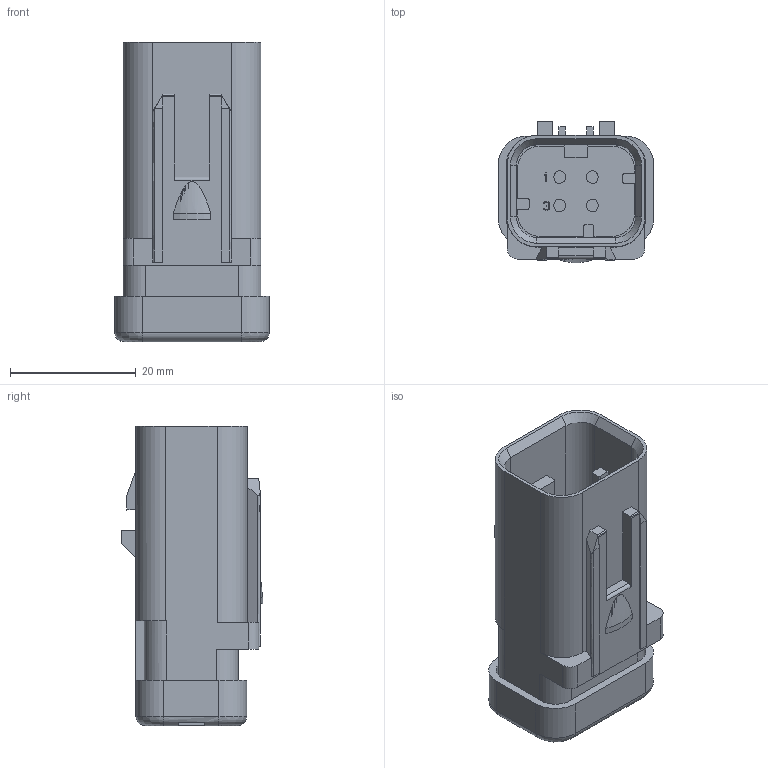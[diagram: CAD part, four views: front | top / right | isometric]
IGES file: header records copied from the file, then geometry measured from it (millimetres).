
Start section:  PTC IGES file: c-776536-1-c-3d.igs
Global section: file name: c-776536-1-c-3d.igs; native system: Creo Parametric by Parametric Technology Corporation; preprocessor: 2013050; author: workeradm; organization: Unknown; units: millimetre
Bounding box: 24.6 x 22.43 x 47.55 mm (x, y, z)
Surface area: 7375.1 mm2 (no closed solid volume)
Topology: 0 solids, 0 shells, 267 faces, 1472 edges, 1472 vertices
Faces by surface type: bspline 196, revolution 71
